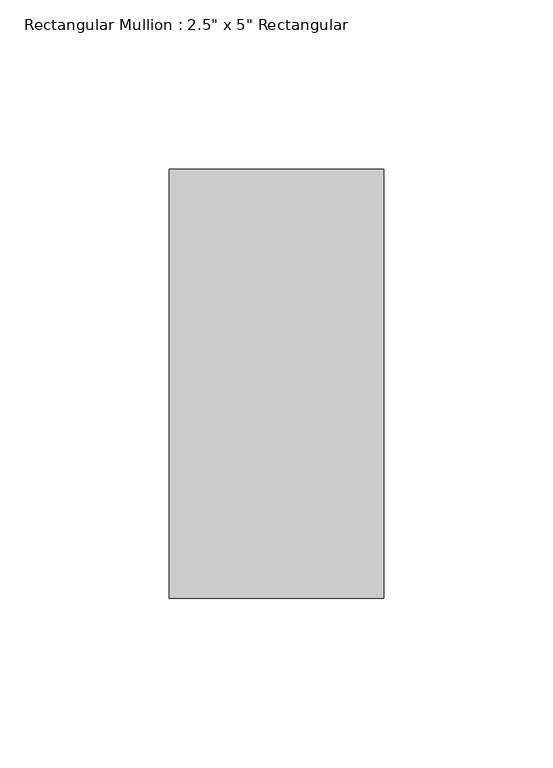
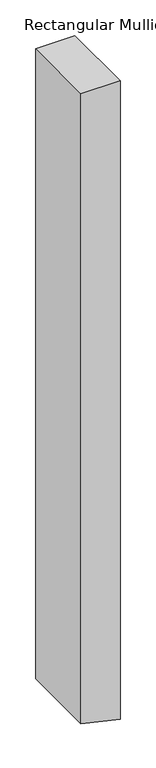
"""IFC4 building model written with IfcOpenShell, lengths in millimetres: member geometry."""

from ifc_helpers import new_model, si_unit, frame, origin, place, context, project, spatial, polyline, outline, extrude, source, transform, mapped, element, save


def member_8f1c7937(model_context):
    return source(origin(), model_context, "Body", "SweptSolid", [
        extrude(outline(polyline([(0.0, 0.0), (0.0, -63.5), (-1078.2469274, -63.5), (-1093.237244, 0.0), (0.0, 0.0)])), frame((0.0, -63.5, 0.0), z_axis=(0.0, 1.0, 0.0), x_axis=(0.0, 0.0, 1.0)), (0.0, 0.0, 1.0), 127.0),
    ])


if __name__ == "__main__":
    model = new_model("IFC4")
    model_context = context("Model", 3, world=origin())
    ifc_project = project(units=[si_unit("LENGTHUNIT", "METRE", prefix="MILLI")], contexts=[model_context])
    site = spatial("IfcSite", under=ifc_project)
    building = spatial("IfcBuilding", under=site)
    placement = place(None, origin())
    member_shape = member_8f1c7937(model_context)
    element("IfcMember", 1, ObjectType="Rectangular Mullion : 2.5\" x 5\" Rectangular", at=placement, inside=building, context=model_context, shape_type="MappedRepresentation", body=[
        mapped(member_shape, transform((0.0, 0.0, 0.0), x_axis=(1.0, 0.0, 0.0), y_axis=(0.0, 1.0, 0.0), z_axis=(0.0, 0.0, 1.0))),
    ])
    save(model, "model.ifc")
